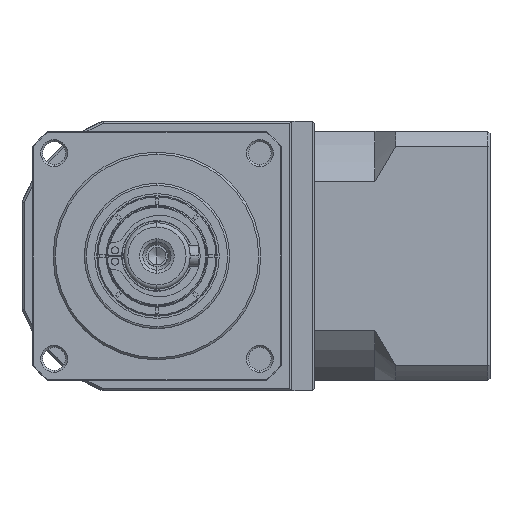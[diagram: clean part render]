
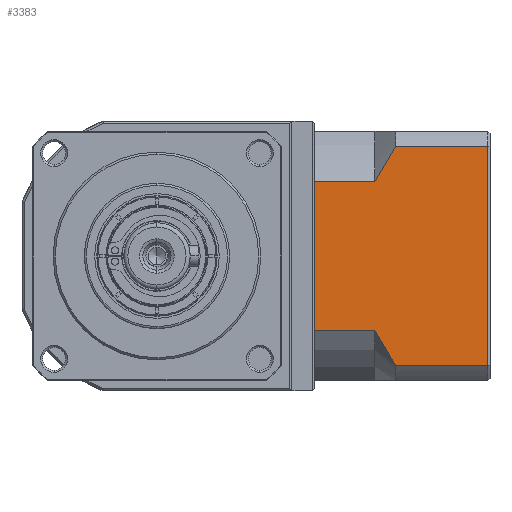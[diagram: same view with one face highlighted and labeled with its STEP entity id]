
A CAD part, left-side view. The second image highlights one B-rep face of the part: STEP entity #3383.
In plain terms, the highlighted planar face has unit normal (-1, 0, 0).
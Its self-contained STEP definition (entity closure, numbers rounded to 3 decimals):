
#3355 = LINE ( 'NONE', #133948, #40682 ) ;
#3383 = ADVANCED_FACE ( 'NONE', ( #136305 ), #131448, .F. ) ;
#4427 = EDGE_CURVE ( 'NONE', #140847, #104223, #138068, .T. ) ;
#4986 = CARTESIAN_POINT ( 'NONE',  ( -155.404, -32.438, -0.267 ) ) ;
#7367 = VECTOR ( 'NONE', #52434, 1000. ) ;
#8006 = EDGE_CURVE ( 'NONE', #80197, #104223, #47869, .T. ) ;
#8030 = DIRECTION ( 'NONE',  ( 0., 1., 0. ) ) ;
#15128 = EDGE_CURVE ( 'NONE', #80197, #91305, #110337, .T. ) ;
#19642 = CARTESIAN_POINT ( 'NONE',  ( -155.404, -32.938, -3.809 ) ) ;
#24882 = DIRECTION ( 'NONE',  ( 0., 1., 0. ) ) ;
#25964 = VECTOR ( 'NONE', #32017, 1000. ) ;
#29055 = ORIENTED_EDGE ( 'NONE', *, *, #8006, .F. ) ;
#29543 = CARTESIAN_POINT ( 'NONE',  ( -155.404, -9.338, 51.288 ) ) ;
#32017 = DIRECTION ( 'NONE',  ( 0., 0., -1. ) ) ;
#33820 = DIRECTION ( 'NONE',  ( 0., 1., 0. ) ) ;
#35608 = ORIENTED_EDGE ( 'NONE', *, *, #150666, .F. ) ;
#36862 = VERTEX_POINT ( 'NONE', #163928 ) ;
#38316 = CARTESIAN_POINT ( 'NONE',  ( -155.404, -5.238, 52.648 ) ) ;
#38788 = CARTESIAN_POINT ( 'NONE',  ( -155.404, -6.789, 5.281 ) ) ;
#40682 = VECTOR ( 'NONE', #8030, 1000. ) ;
#43657 = CARTESIAN_POINT ( 'NONE',  ( -155.404, -5.986, 45.671 ) ) ;
#47869 = LINE ( 'NONE', #123137, #135744 ) ;
#52434 = DIRECTION ( 'NONE',  ( 0., -1., 0. ) ) ;
#52778 = CARTESIAN_POINT ( 'NONE',  ( -155.404, -5.238, 44.218 ) ) ;
#53468 = CARTESIAN_POINT ( 'NONE',  ( -155.404, -5.238, 8.163 ) ) ;
#62914 = CARTESIAN_POINT ( 'NONE',  ( -155.404, 9.262, 8.163 ) ) ;
#78653 = DIRECTION ( 'NONE',  ( 0., 0., 1. ) ) ;
#80197 = VERTEX_POINT ( 'NONE', #53468 ) ;
#81138 = CARTESIAN_POINT ( 'NONE',  ( -155.404, -9.337, 1.096 ) ) ;
#83914 = EDGE_CURVE ( 'NONE', #156460, #91305, #3355, .T. ) ;
#91305 = VERTEX_POINT ( 'NONE', #164847 ) ;
#93272 = B_SPLINE_CURVE_WITH_KNOTS ( 'NONE', 3,
 ( #112961, #29543, #113586, #127740, #43657, #141884 ),
 .UNSPECIFIED., .F., .F.,
 ( 4, 2, 4 ),
 ( 0.052, 0.057, 0.062 ),
 .UNSPECIFIED. ) ;
#93347 = CARTESIAN_POINT ( 'NONE',  ( -155.404, -32.438, -3.809 ) ) ;
#93910 = LINE ( 'NONE', #93347, #164269 ) ;
#99468 = EDGE_CURVE ( 'NONE', #103146, #135321, #93272, .T. ) ;
#103146 = VERTEX_POINT ( 'NONE', #105899 ) ;
#103201 = EDGE_LOOP ( 'NONE', ( #140426, #134122, #128784, #164711, #35608, #104293, #29055, #178585 ) ) ;
#104223 = VERTEX_POINT ( 'NONE', #62914 ) ;
#104293 = ORIENTED_EDGE ( 'NONE', *, *, #4427, .T. ) ;
#105899 = CARTESIAN_POINT ( 'NONE',  ( -155.404, -10.238, 52.648 ) ) ;
#108046 = AXIS2_PLACEMENT_3D ( 'NONE', #19642, #117918, #33820 ) ;
#110337 = B_SPLINE_CURVE_WITH_KNOTS ( 'NONE', 3,
 ( #151141, #137060, #38788, #165272, #81138, #179382 ),
 .UNSPECIFIED., .F., .F.,
 ( 4, 2, 4 ),
 ( 0.1, 0.104, 0.109 ),
 .UNSPECIFIED. ) ;
#112961 = CARTESIAN_POINT ( 'NONE',  ( -155.404, -10.238, 52.648 ) ) ;
#113586 = CARTESIAN_POINT ( 'NONE',  ( -155.404, -8.465, 49.91 ) ) ;
#114490 = EDGE_CURVE ( 'NONE', #156460, #36862, #93910, .T. ) ;
#116094 = CARTESIAN_POINT ( 'NONE',  ( -155.404, 9.262, -3.809 ) ) ;
#117918 = DIRECTION ( 'NONE',  ( 1., 0., 0. ) ) ;
#119466 = LINE ( 'NONE', #38316, #7367 ) ;
#122346 = EDGE_CURVE ( 'NONE', #103146, #36862, #119466, .T. ) ;
#123137 = CARTESIAN_POINT ( 'NONE',  ( -155.404, -5.238, 8.163 ) ) ;
#127740 = CARTESIAN_POINT ( 'NONE',  ( -155.404, -6.789, 47.102 ) ) ;
#128784 = ORIENTED_EDGE ( 'NONE', *, *, #122346, .F. ) ;
#130597 = CARTESIAN_POINT ( 'NONE',  ( -155.404, -5.238, 44.218 ) ) ;
#131448 = PLANE ( 'NONE',  #108046 ) ;
#133948 = CARTESIAN_POINT ( 'NONE',  ( -155.404, -5.238, -0.267 ) ) ;
#134122 = ORIENTED_EDGE ( 'NONE', *, *, #114490, .T. ) ;
#135321 = VERTEX_POINT ( 'NONE', #52778 ) ;
#135744 = VECTOR ( 'NONE', #24882, 1000. ) ;
#136305 = FACE_OUTER_BOUND ( 'NONE', #103201, .T. ) ;
#137060 = CARTESIAN_POINT ( 'NONE',  ( -155.404, -5.988, 6.706 ) ) ;
#137200 = LINE ( 'NONE', #130597, #170157 ) ;
#138068 = LINE ( 'NONE', #116094, #25964 ) ;
#140426 = ORIENTED_EDGE ( 'NONE', *, *, #83914, .F. ) ;
#140847 = VERTEX_POINT ( 'NONE', #169842 ) ;
#141884 = CARTESIAN_POINT ( 'NONE',  ( -155.404, -5.238, 44.218 ) ) ;
#150666 = EDGE_CURVE ( 'NONE', #140847, #135321, #137200, .T. ) ;
#151141 = CARTESIAN_POINT ( 'NONE',  ( -155.404, -5.238, 8.163 ) ) ;
#156460 = VERTEX_POINT ( 'NONE', #4986 ) ;
#159472 = DIRECTION ( 'NONE',  ( 0., -1., 0. ) ) ;
#163928 = CARTESIAN_POINT ( 'NONE',  ( -155.404, -32.438, 52.648 ) ) ;
#164269 = VECTOR ( 'NONE', #78653, 1000. ) ;
#164711 = ORIENTED_EDGE ( 'NONE', *, *, #99468, .T. ) ;
#164847 = CARTESIAN_POINT ( 'NONE',  ( -155.404, -10.238, -0.267 ) ) ;
#165272 = CARTESIAN_POINT ( 'NONE',  ( -155.404, -8.463, 2.476 ) ) ;
#169842 = CARTESIAN_POINT ( 'NONE',  ( -155.404, 9.262, 44.218 ) ) ;
#170157 = VECTOR ( 'NONE', #159472, 1000. ) ;
#178585 = ORIENTED_EDGE ( 'NONE', *, *, #15128, .T. ) ;
#179382 = CARTESIAN_POINT ( 'NONE',  ( -155.404, -10.238, -0.267 ) ) ;
